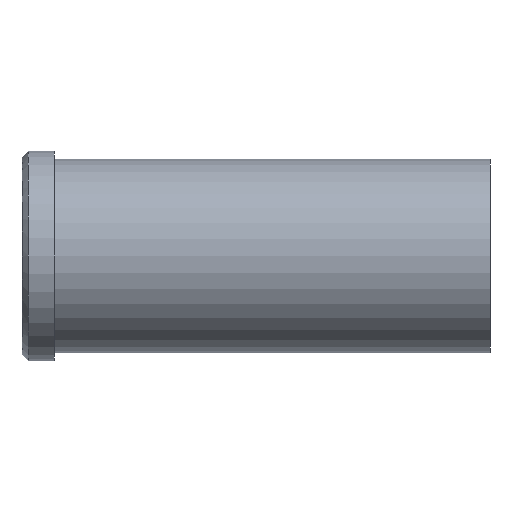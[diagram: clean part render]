
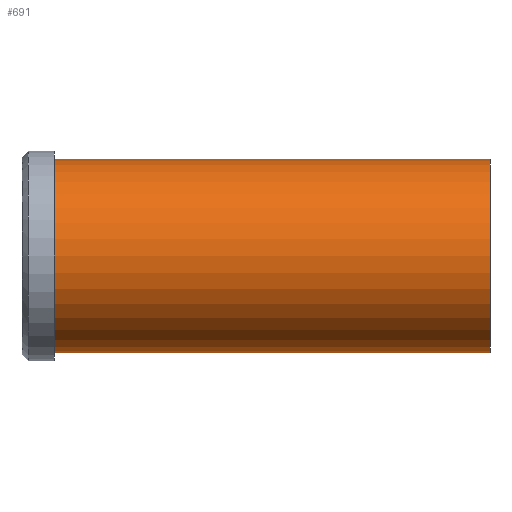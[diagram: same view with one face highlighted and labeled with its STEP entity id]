
A CAD part, front view. The second image highlights one B-rep face of the part: STEP entity #691.
In plain terms, the highlighted cylindrical face has radius 24 mm (diameter 48 mm), a partial arc.
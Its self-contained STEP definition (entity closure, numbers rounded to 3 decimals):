
#501=CARTESIAN_POINT('Vertex',(0.,0.,-24.)) ;
#506=CARTESIAN_POINT('Axis2P3D Location',(0.,0.,0.)) ;
#510=CARTESIAN_POINT('Vertex',(0.,-24.,0.)) ;
#513=CARTESIAN_POINT('Axis2P3D Location',(0.,0.,0.)) ;
#517=CARTESIAN_POINT('Vertex',(0.,0.,24.)) ;
#631=CARTESIAN_POINT('Line Origine',(108.,0.,24.)) ;
#635=CARTESIAN_POINT('Vertex',(108.,0.,24.)) ;
#649=CARTESIAN_POINT('Vertex',(108.,0.,-24.)) ;
#652=CARTESIAN_POINT('Line Origine',(108.,0.,-24.)) ;
#666=CARTESIAN_POINT('Axis2P3D Location',(108.,0.,0.)) ;
#671=CARTESIAN_POINT('Axis2P3D Location',(108.,0.,0.)) ;
#675=CARTESIAN_POINT('Vertex',(108.,-24.,0.)) ;
#678=CARTESIAN_POINT('Axis2P3D Location',(108.,0.,0.)) ;
#507=DIRECTION('Axis2P3D Direction',(1.,0.,-0.)) ;
#514=DIRECTION('Axis2P3D Direction',(1.,0.,-0.)) ;
#632=DIRECTION('Vector Direction',(-1.,0.,0.)) ;
#653=DIRECTION('Vector Direction',(-1.,0.,0.)) ;
#667=DIRECTION('Axis2P3D Direction',(-1.,-0.,-0.)) ;
#668=DIRECTION('Axis2P3D XDirection',(0.,0.,-1.)) ;
#672=DIRECTION('Axis2P3D Direction',(-1.,-0.,-0.)) ;
#679=DIRECTION('Axis2P3D Direction',(-1.,-0.,-0.)) ;
#508=AXIS2_PLACEMENT_3D('Circle Axis2P3D',#506,#507,$) ;
#515=AXIS2_PLACEMENT_3D('Circle Axis2P3D',#513,#514,$) ;
#669=AXIS2_PLACEMENT_3D('Cylinder Axis2P3D',#666,#667,#668) ;
#673=AXIS2_PLACEMENT_3D('Circle Axis2P3D',#671,#672,$) ;
#680=AXIS2_PLACEMENT_3D('Circle Axis2P3D',#678,#679,$) ;
#684=ORIENTED_EDGE('',*,*,#656,.T.) ;
#685=ORIENTED_EDGE('',*,*,#677,.F.) ;
#686=ORIENTED_EDGE('',*,*,#682,.F.) ;
#687=ORIENTED_EDGE('',*,*,#637,.T.) ;
#688=ORIENTED_EDGE('',*,*,#519,.T.) ;
#689=ORIENTED_EDGE('',*,*,#512,.T.) ;
#633=VECTOR('Line Direction',#632,1.) ;
#654=VECTOR('Line Direction',#653,1.) ;
#691=ADVANCED_FACE('353-40X116',(#690),#670,.T.) ;
#509=CIRCLE('generated circle',#508,24.) ;
#516=CIRCLE('generated circle',#515,24.) ;
#674=CIRCLE('generated circle',#673,24.) ;
#681=CIRCLE('generated circle',#680,24.) ;
#670=CYLINDRICAL_SURFACE('generated cylinder',#669,24.) ;
#512=EDGE_CURVE('',#511,#502,#509,.T.) ;
#519=EDGE_CURVE('',#518,#511,#516,.T.) ;
#637=EDGE_CURVE('',#636,#518,#634,.T.) ;
#656=EDGE_CURVE('',#502,#650,#655,.F.) ;
#677=EDGE_CURVE('',#676,#650,#674,.F.) ;
#682=EDGE_CURVE('',#636,#676,#681,.F.) ;
#683=EDGE_LOOP('',(#684,#685,#686,#687,#688,#689)) ;
#690=FACE_OUTER_BOUND('',#683,.T.) ;
#634=LINE('Line',#631,#633) ;
#655=LINE('Line',#652,#654) ;
#502=VERTEX_POINT('',#501) ;
#511=VERTEX_POINT('',#510) ;
#518=VERTEX_POINT('',#517) ;
#636=VERTEX_POINT('',#635) ;
#650=VERTEX_POINT('',#649) ;
#676=VERTEX_POINT('',#675) ;
